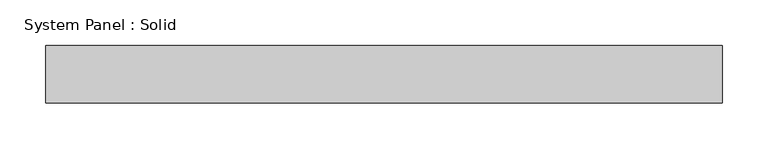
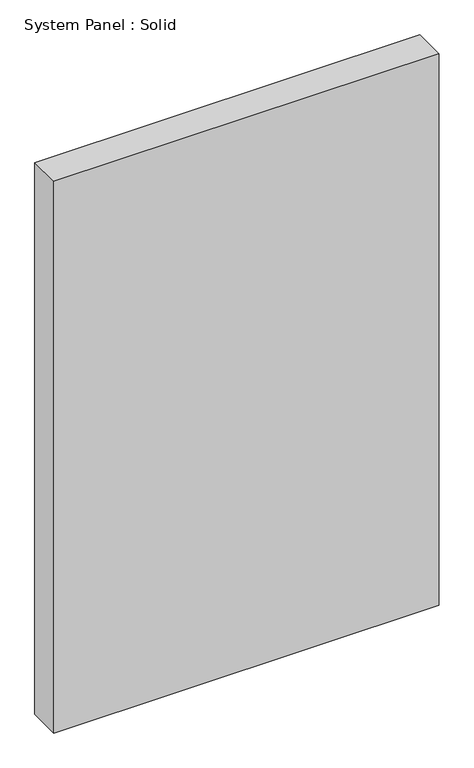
"""IFC4 building model written with IfcOpenShell, lengths in millimetres: plate geometry, System Panel : Solid."""

from ifc_helpers import new_model, si_unit, origin, origin_with_axes, place, context, project, spatial, polyline, outline, extrude, source, transform, mapped, element, save


def system_panel_solid_2b1a41ae(model_context):
    return source(origin(), model_context, "Body", "SweptSolid", [
        extrude(outline(polyline([(371.2456567, -19.05), (-371.2456567, -19.05), (-371.2456567, 44.45), (371.2456567, 44.45), (371.2456567, -19.05)])), origin_with_axes(), (0.0, 0.0, 1.0), 1123.95),
    ])


if __name__ == "__main__":
    model = new_model("IFC4")
    model_context = context("Model", 3, world=origin())
    ifc_project = project(units=[si_unit("LENGTHUNIT", "METRE", prefix="MILLI")], contexts=[model_context])
    site = spatial("IfcSite", under=ifc_project)
    building = spatial("IfcBuilding", under=site)
    placement = place(None, origin())
    system_panel_solid_shape = system_panel_solid_2b1a41ae(model_context)
    element("IfcPlate", 1, ObjectType="System Panel : Solid", at=placement, inside=building, context=model_context, shape_type="MappedRepresentation", body=[
        mapped(system_panel_solid_shape, transform((0.0, 0.0, 0.0), x_axis=(1.0, 0.0, 0.0), y_axis=(0.0, 1.0, 0.0), z_axis=(0.0, 0.0, 1.0))),
    ])
    save(model, "model.ifc")
